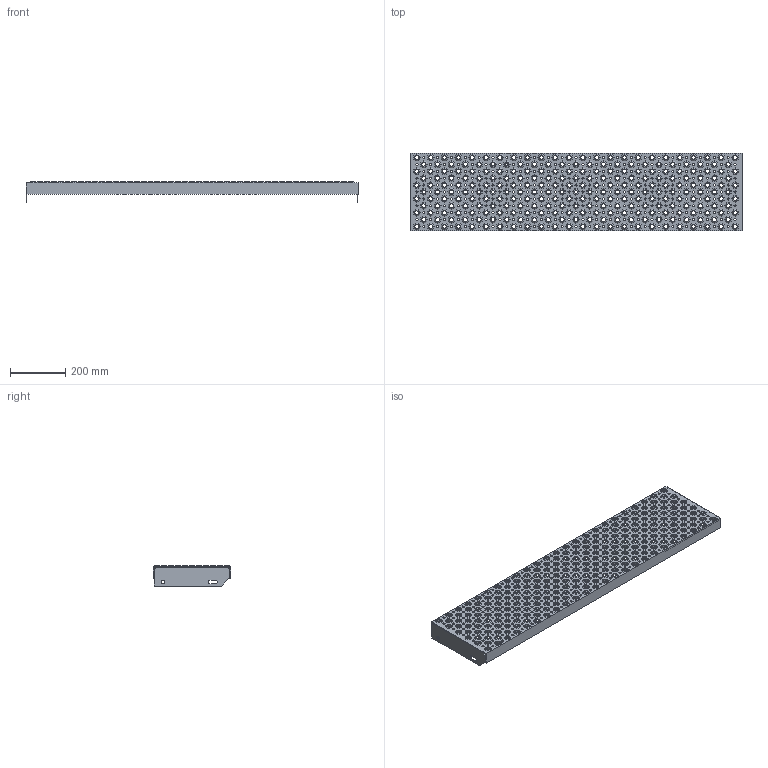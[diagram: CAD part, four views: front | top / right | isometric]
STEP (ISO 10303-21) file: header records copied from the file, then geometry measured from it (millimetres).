
FILE_DESCRIPTION(('Open CASCADE Model'),'2;1');
FILE_NAME('Open CASCADE Shape Model','2020-06-30T13:10:30',('Author'),( 'Open CASCADE'),'Open CASCADE STEP processor 7.2','Open CASCADE 7.2' ,'Unknown');
FILE_SCHEMA(('AUTOMOTIVE_DESIGN { 1 0 10303 214 1 1 1 1 }'));
Length unit declared in the file: millimetre
Products named in the file (10891): Open CASCADE STEP translator 7.2 1; Open CASCADE STEP translator 7.2 2; Open CASCADE STEP translator 7.2 3; Open CASCADE STEP translator 7.2 3.1; Open CASCADE STEP translator 7.2 3.2; Open CASCADE STEP translator 7.2 3.3; Open CASCADE STEP translator 7.2 3.4; Open CASCADE STEP translator 7.2 3.5; Open CASCADE STEP translator 7.2 3.6; Open CASCADE STEP translator 7.2 3.7; Open CASCADE STEP translator 7.2 3.8; Open CASCADE STEP translator 7.2 3.9; Open CASCADE STEP translator 7.2 3.10; Open CASCADE STEP translator 7.2 3.11; Open CASCADE STEP translator 7.2 3.12; Open CASCADE STEP translator 7.2 3.13; Open CASCADE STEP translator 7.2 3.14; Open CASCADE STEP translator 7.2 3.15; Open CASCADE STEP translator 7.2 3.16; Open CASCADE STEP translator 7.2 3.17; Open CASCADE STEP translator 7.2 3.18; Open CASCADE STEP translator 7.2 3.19; Open CASCADE STEP translator 7.2 3.20; Open CASCADE STEP translator 7.2 3.21; Open CASCADE STEP translator 7.2 3.22; Open CASCADE STEP translator 7.2 3.23; Open CASCADE STEP translator 7.2 3.24; Open CASCADE STEP translator 7.2 3.25; Open CASCADE STEP translator 7.2 3.26; Open CASCADE STEP translator 7.2 3.27; Open CASCADE STEP translator 7.2 3.28; Open CASCADE STEP translator 7.2 3.29; Open CASCADE STEP translator 7.2 3.30; Open CASCADE STEP translator 7.2 3.31; Open CASCADE STEP translator 7.2 3.32; Open CASCADE STEP translator 7.2 3.33; Open CASCADE STEP translator 7.2 3.34; Open CASCADE STEP translator 7.2 3.35; Open CASCADE STEP translator 7.2 3.36; Open CASCADE STEP translator 7.2 3.37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
Assembly tree (10888 placements, depth 2):
  Open CASCADE STEP translator 7.2 1
  Open CASCADE STEP translator 7.2 2
  Open CASCADE STEP translator 7.2 3
    Open CASCADE STEP translator 7.2 3.1
    Open CASCADE STEP translator 7.2 3.2
    Open CASCADE STEP translator 7.2 3.3
    Open CASCADE STEP translator 7.2 3.4
    Open CASCADE STEP translator 7.2 3.5
    Open CASCADE STEP translator 7.2 3.6
    Open CASCADE STEP translator 7.2 3.7
    Open CASCADE STEP translator 7.2 3.8
    Open CASCADE STEP translator 7.2 3.9
    Open CASCADE STEP translator 7.2 3.10
    Open CASCADE STEP translator 7.2 3.11
    Open CASCADE STEP translator 7.2 3.12
    Open CASCADE STEP translator 7.2 3.13
    Open CASCADE STEP translator 7.2 3.14
    Open CASCADE STEP translator 7.2 3.15
    Open CASCADE STEP translator 7.2 3.16
    Open CASCADE STEP translator 7.2 3.17
    Open CASCADE STEP translator 7.2 3.18
    Open CASCADE STEP translator 7.2 3.19
    Open CASCADE STEP translator 7.2 3.20
    Open CASCADE STEP translator 7.2 3.21
    Open CASCADE STEP translator 7.2 3.22
    Open CASCADE STEP translator 7.2 3.23
    Open CASCADE STEP translator 7.2 3.24
    Open CASCADE STEP translator 7.2 3.25
    Open CASCADE STEP translator 7.2 3.26
    Open CASCADE STEP translator 7.2 3.27
    Open CASCADE STEP translator 7.2 3.28
    Open CASCADE STEP translator 7.2 3.29
    Open CASCADE STEP translator 7.2 3.30
    Open CASCADE STEP translator 7.2 3.31
    Open CASCADE STEP translator 7.2 3.32
    Open CASCADE STEP translator 7.2 3.33
    Open CASCADE STEP translator 7.2 3.34
    Open CASCADE STEP translator 7.2 3.35
    Open CASCADE STEP translator 7.2 3.36
    Open CASCADE STEP translator 7.2 3.37
    Open CASCADE STEP translator 7.2 3.38
    Open CASCADE STEP translator 7.2 3.39
    Open CASCADE STEP translator 7.2 3.40
    Open CASCADE STEP translator 7.2 3.41
    Open CASCADE STEP translator 7.2 3.42
    Open CASCADE STEP translator 7.2 3.43
    Open CASCADE STEP translator 7.2 3.44
    Open CASCADE STEP translator 7.2 3.45
    Open CASCADE STEP translator 7.2 3.46
    Open CASCADE STEP translator 7.2 3.47
    Open CASCADE STEP translator 7.2 3.48
    Open CASCADE STEP translator 7.2 3.49
    Open CASCADE STEP translator 7.2 3.50
    Open CASCADE STEP translator 7.2 3.51
    Open CASCADE STEP translator 7.2 3.52
    Open CASCADE STEP translator 7.2 3.53
    Open CASCADE STEP translator 7.2 3.54
    Open CASCADE STEP translator 7.2 3.55
    Open CASCADE STEP translator 7.2 3.56
    Open CASCADE STEP translator 7.2 3.57
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Bounding box: 1200 x 280 x 73 mm (x, y, z)
Volume: 103695.2 mm3; surface area: 1099816.9 mm2
Topology: 2 solids, 10890 shells, 10916 faces, 62280 edges, 62256 vertices
Faces by surface type: plane 10910, cylinder 6
Full cylindrical faces by diameter (mm): 13 x2
Entity records: 1242904 total; most frequent: CARTESIAN_POINT 208741, DIRECTION 168226, LINE 124584, VECTOR 124584, ORIENTED_EDGE 62352, PCURVE 62352, DEFINITIONAL_REPRESENTATION 62352, EDGE_CURVE 62280
